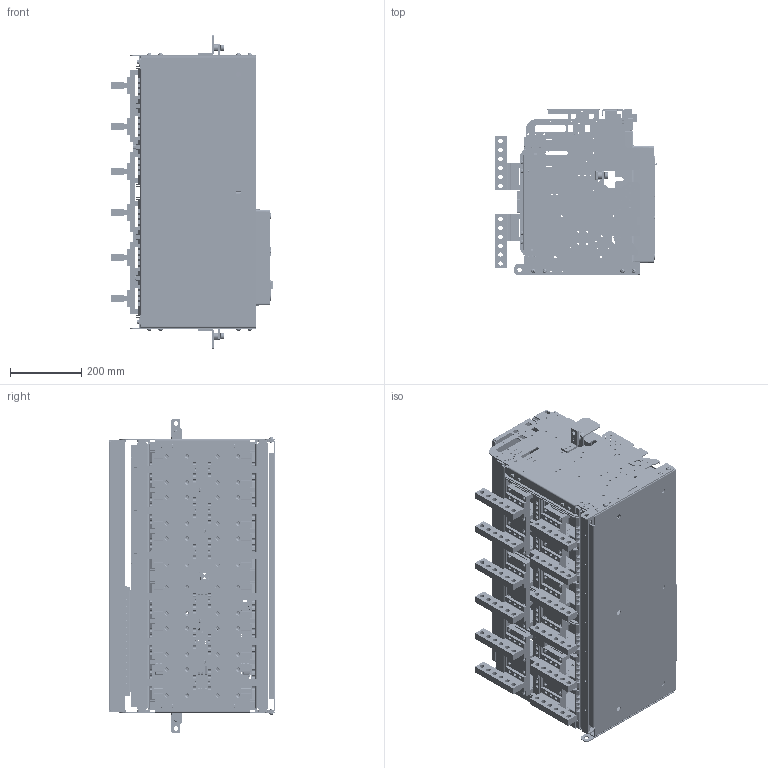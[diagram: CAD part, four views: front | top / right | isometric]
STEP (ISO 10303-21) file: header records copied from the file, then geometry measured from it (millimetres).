
FILE_DESCRIPTION((''),'2;1');
FILE_NAME('HG_28_D503_633V_ASM_ASM','2019-03-27T',('HHI'),(''),'PRO/ENGINEER BY PARAMETRIC TECHNOLOGY CORPORATION, 2012453','PRO/ENGINEER BY PARAMETRIC TECHNOLOGY CORPORATION, 2012453','');
FILE_SCHEMA(('CONFIG_CONTROL_DESIGN'));
Products named in the file (56): PRT0530; ASM0148_ASM; PRT0531; PRT0532; PRT0533; ASM0149_ASM; PRT0534; PRT0535; ASM0151_ASM; ASM0150_ASM; PRT0536; PRT0537; ASM0152_ASM; PRT0538; PRT0539; ASM0153_ASM; PRT0540; 4AT-06870_2; ASM0154_ASM; PRT0541; PRT0542; PRT0543; 3AT-05059_ASM_2_ASM; PRT0544; 3AT-05060_ASM_2_ASM; 3AT-05063S02_1; PRT0545; PRT0547; PRT0548; PRT0549; PRT0550; ASM0157_ASM; PRT0551; PRT0552; PRT0553; ASM0158_ASM; PRT0556; ASM0156_ASM; PRT0557; ASM0155_ASM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
Assembly tree (147 placements, depth 6):
  HG_28_D503_633V_ASM_ASM
    D633V_ASM_4_ASM
      ASM0148_ASM
        PRT0530
      PRT0531
      PRT0532  x8
      ASM0149_ASM
        PRT0533
      ASM0150_ASM
        PRT0534
        ASM0151_ASM
          PRT0535
      ASM0152_ASM
        PRT0536
        PRT0537  x8
      ASM0153_ASM  x2
        PRT0538
        PRT0539
      ASM0154_ASM
        PRT0540
        4AT-06870_2  x6
      PRT0541  x8
      PRT0542  x24
      3AT-05059_ASM_2_ASM  x4
        PRT0543
      3AT-05060_ASM_2_ASM  x2
        PRT0544
      3AT-05063S02_1  x12
      ASM0155_ASM
        ASM0156_ASM
          PRT0545
          ASM0157_ASM
            PRT0547
            PRT0548
            PRT0549
            PRT0550
          ASM0158_ASM
            PRT0551
            PRT0552
            PRT0553
          PRT0556
        PRT0557
      PRT0558
      ASM0159_ASM
        PRT0559
        PRT0560
        PRT0561
        PRT0562
      ASM0160_ASM
        PRT0563
        PRT0564
        FIX_BLOCK_CRADLE_6
        BOLT_5
    HG_FRONT_COVER_40
    4AT-06477S03
    4AT-06477S04
Bounding box: 453.03 x 466.35 x 878.2 mm (x, y, z)
Volume: 11868768.6 mm3; surface area: 5952482 mm2
Topology: 159 solids, 308 shells, 20027 faces, 57434 edges, 37369 vertices
Faces by surface type: plane 14034, cylinder 4598, cone 604, torus 285, sphere 218, bspline 147, extrusion 141
Entity records: 510545 total; most frequent: CARTESIAN_POINT 98136, ORIENTED_EDGE 88340, DIRECTION 81430, EDGE_CURVE 44372, VECTOR 36532, LINE 36391, VERTEX_POINT 28994, AXIS2_PLACEMENT_3D 22449
